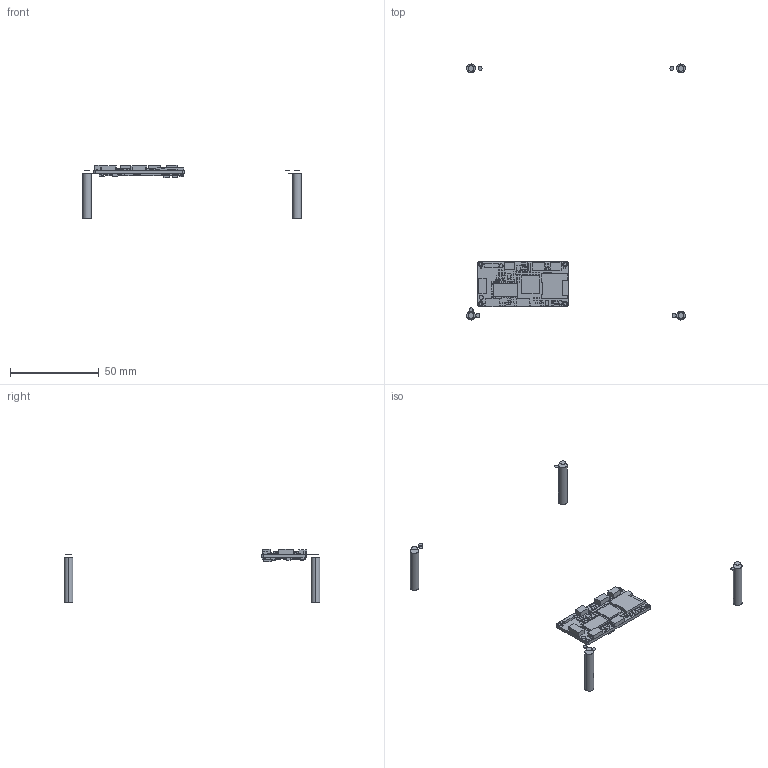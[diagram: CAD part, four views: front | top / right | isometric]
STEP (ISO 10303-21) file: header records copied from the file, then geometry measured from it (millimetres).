
FILE_DESCRIPTION(/* description */ ('PCB Design'),/* implementation_level */ '2;1');
FILE_NAME(/* name */ 'MERCURY_Nano_R1',/* time_stamp */ '2020-01-16T14:54:02+02:00',/* author */ ('xxxxx'),/* organization */ (''),/* preprocessor_version */ 'ST-DEVELOPER v15',/* originating_system */ 'allegro_16.6S050',/* authorisation */ '');
FILE_SCHEMA (('AUTOMOTIVE_DESIGN'));
Length unit declared in the file: millimetre
Products named in the file (43): MERCURY_NANO_R1-ODB; BOARD; COMPONENTS; MU98K130; SR0402; SM05B-SRSS-TB; SOT563; WSON8-1R27-8X6; USP-11B01; C0402; R0402; SOT23-5; C0201_S; C0201; R0201_S; R0201; CM7V-T1A; FCI10118192; DF40C-50DP-0P4V; 5031820853; ALT4532M; IND_0603; SM10B-XSRS-ETB; M65P105; USP-9B01; FID40; SM06B-SRSS-TB; SM04B-SRSS-TB; FB0201; C1206; HBGA524-16-2424; 1239AS_H_1R0M; R0603; CS7331P; SOT23-6; C0603; FB0603; ABM8G_3P2X2P5; QFN64_9X9MM_EP7P3MM; FDFN1212-4LD-PL-9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
Assembly tree (408 placements, depth 3):
  MERCURY_NANO_R1-ODB
    BOARD
    COMPONENTS
      MU98K130  x4
      SR0402
      SM05B-SRSS-TB
      SOT563  x3
      WSON8-1R27-8X6
      USP-11B01  x2
      C0402  x85
      R0402  x115
      SOT23-5  x2
      C0201_S  x22
      C0201  x79
      R0201_S  x5
      R0201  x21
      CM7V-T1A
      FCI10118192  x2
      DF40C-50DP-0P4V  x2
      5031820853
      ALT4532M  x2
      IND_0603  x2
      SM10B-XSRS-ETB
      M65P105  x4
      USP-9B01
      FID40  x12
      SM06B-SRSS-TB
      SM04B-SRSS-TB  x2
      FB0201  x6
      C1206
      HBGA524-16-2424
      1239AS_H_1R0M  x3
      R0603
      CS7331P
      SOT23-6
      C0603  x6
      FB0603  x2
      ABM8G_3P2X2P5
      QFN64_9X9MM_EP7P3MM
      FDFN1212-4LD-PL-9  x4
      BGA96-32-1609AA  x2
      APG0603_C1A2  x3
      X3_1P6X1P2
Bounding box: 123.09 x 144.04 x 30.09 mm (x, y, z)
Surface area: 9101.4 mm2 (no closed solid volume)
Topology: 0 solids, 411 shells, 2456 faces, 5318 edges, 3268 vertices
Faces by surface type: plane 2394, cylinder 62
Entity records: 11297 total; most frequent: DIRECTION 1556, ORIENTED_EDGE 1140, AXIS2_PLACEMENT_3D 1134, CARTESIAN_POINT 947, EDGE_CURVE 617, VECTOR 573, LINE 573, VERTEX_POINT 474
